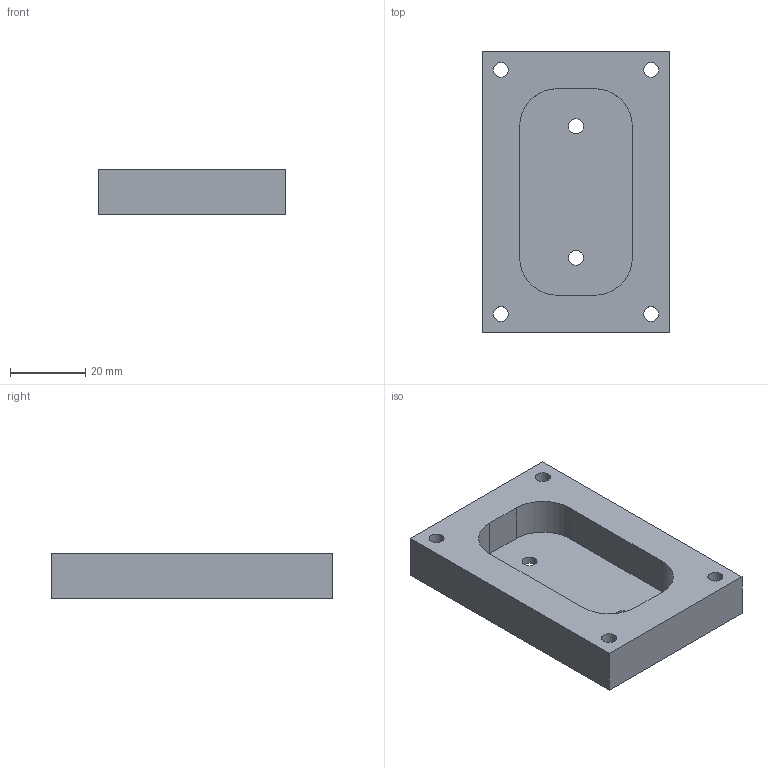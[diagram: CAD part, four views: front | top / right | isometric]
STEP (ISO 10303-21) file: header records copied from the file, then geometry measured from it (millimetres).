
FILE_DESCRIPTION(/* description */ (''),/* implementation_level */ '2;1');
FILE_NAME(/* name */ 'model_R10.step',/* time_stamp */ '2023-08-02T10:10:20+09:00',/* author */ (''),/* organization */ (''),/* preprocessor_version */ 'ST-DEVELOPER v19.2',/* originating_system */ 'Autodesk Translation Framework v12.4.0.73',/* authorisation */ '');
FILE_SCHEMA (('AUTOMOTIVE_DESIGN { 1 0 10303 214 3 1 1 }'));
Length unit declared in the file: millimetre
Products named in the file (1): (未保存)
Bounding box: 50 x 75 x 12 mm (x, y, z)
Volume: 28705 mm3; surface area: 12531 mm2
Topology: 1 solids, 1 shells, 21 faces, 54 edges, 36 vertices
Faces by surface type: plane 11, cylinder 10
Full cylindrical faces by diameter (mm): 4 x6
Entity records: 705 total; most frequent: DIRECTION 118, CARTESIAN_POINT 112, ORIENTED_EDGE 108, EDGE_CURVE 54, AXIS2_PLACEMENT_3D 42, VERTEX_POINT 36, EDGE_LOOP 34, LINE 34
